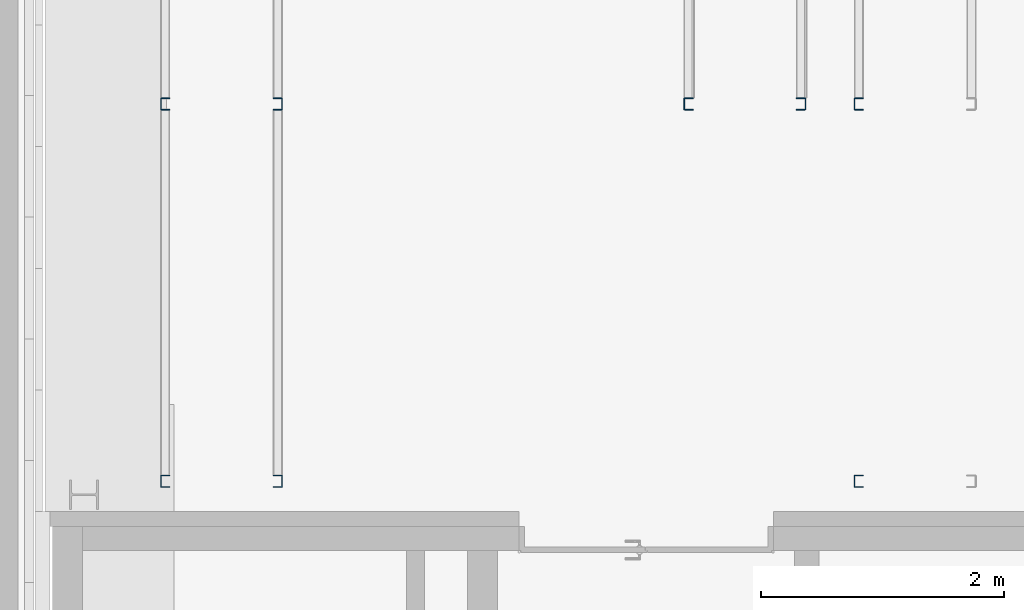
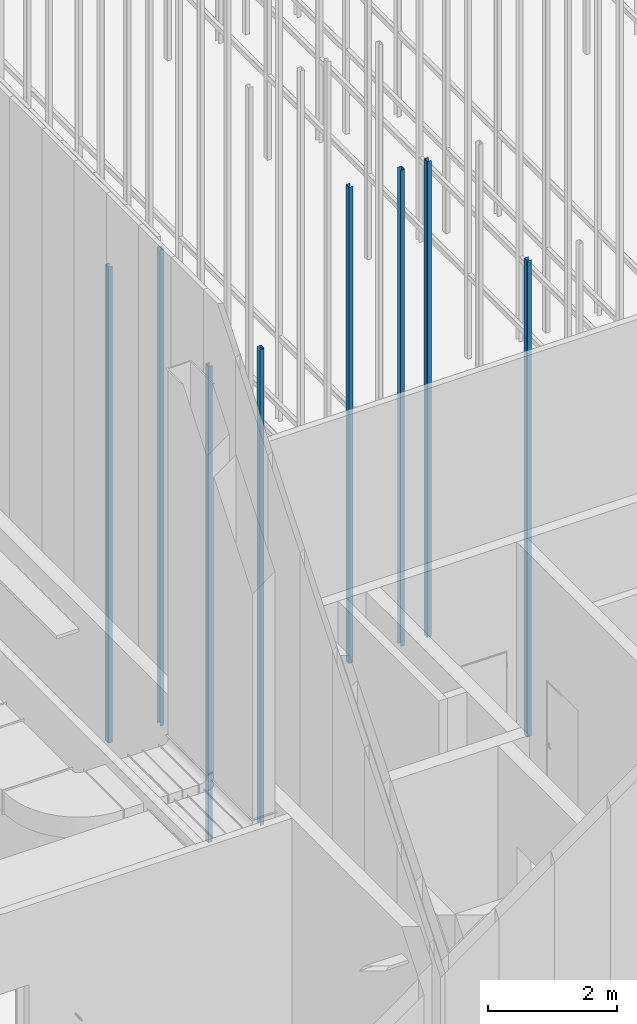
# One storey, part 6 of 302: 8 columns.
"""IFC2X3 building model written with IfcOpenShell, lengths in metres."""

from ifc_helpers import new_model, entity, si_unit, converted_unit, derived_unit, direction, frame, frame_2d, origin, place, context, subcontext, project, spatial, polyline, circle_curve, parameter, trimmed, segment, composite_curve, outline, extrude, source, transform, mapped, material, type_object, type_shapes, element, save


model = new_model("IFC2X3")

# Units and contexts
model_context = context("Model", 3, precision=1e-05, world=origin(), true_north=direction((6.12303176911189e-17, 1.0)))
body_context = subcontext(model_context, "Body", "Model", "MODEL_VIEW")
ifc_project = project(units=[si_unit("LENGTHUNIT", "METRE"), si_unit("AREAUNIT", "SQUARE_METRE"), si_unit("VOLUMEUNIT", "CUBIC_METRE"), converted_unit("PLANEANGLEUNIT", "DEGREE", entity("IfcRatioMeasure", 0.0174532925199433), si_unit("PLANEANGLEUNIT", "RADIAN"), dimensions=[0, 0, 0, 0, 0, 0, 0]), si_unit("MASSUNIT", "GRAM", prefix="KILO"), derived_unit("MASSDENSITYUNIT", [(si_unit("MASSUNIT", "GRAM", prefix="KILO"), 1), (si_unit("LENGTHUNIT", "METRE"), -3)]), derived_unit("MOMENTOFINERTIAUNIT", [(si_unit("LENGTHUNIT", "METRE"), 4)]), si_unit("TIMEUNIT", "SECOND"), si_unit("FREQUENCYUNIT", "HERTZ"), si_unit("THERMODYNAMICTEMPERATUREUNIT", "DEGREE_CELSIUS"), derived_unit("THERMALTRANSMITTANCEUNIT", [(si_unit("MASSUNIT", "GRAM", prefix="KILO"), 1), (si_unit("THERMODYNAMICTEMPERATUREUNIT", "KELVIN"), -1), (si_unit("TIMEUNIT", "SECOND"), -3)]), derived_unit("VOLUMETRICFLOWRATEUNIT", [(si_unit("LENGTHUNIT", "METRE"), 3), (si_unit("TIMEUNIT", "SECOND"), -1)]), si_unit("ELECTRICCURRENTUNIT", "AMPERE"), si_unit("ELECTRICVOLTAGEUNIT", "VOLT"), si_unit("POWERUNIT", "WATT"), si_unit("FORCEUNIT", "NEWTON", prefix="KILO"), si_unit("ILLUMINANCEUNIT", "LUX"), si_unit("LUMINOUSFLUXUNIT", "LUMEN"), si_unit("LUMINOUSINTENSITYUNIT", "CANDELA"), derived_unit("USERDEFINED", [(si_unit("MASSUNIT", "GRAM", prefix="KILO"), -1), (si_unit("LENGTHUNIT", "METRE"), -2), (si_unit("TIMEUNIT", "SECOND"), 3), (si_unit("LUMINOUSFLUXUNIT", "LUMEN"), 1)]), derived_unit("LINEARVELOCITYUNIT", [(si_unit("LENGTHUNIT", "METRE"), 1), (si_unit("TIMEUNIT", "SECOND"), -1)]), si_unit("PRESSUREUNIT", "PASCAL"), derived_unit("USERDEFINED", [(si_unit("LENGTHUNIT", "METRE"), -2), (si_unit("MASSUNIT", "GRAM", prefix="KILO"), 1), (si_unit("TIMEUNIT", "SECOND"), -2)]), derived_unit("LINEARFORCEUNIT", [(si_unit("MASSUNIT", "GRAM", prefix="KILO"), 1), (si_unit("LENGTHUNIT", "METRE"), 1), (si_unit("TIMEUNIT", "SECOND"), -2), (si_unit("LENGTHUNIT", "METRE"), -1)]), derived_unit("PLANARFORCEUNIT", [(si_unit("MASSUNIT", "GRAM", prefix="KILO"), 1), (si_unit("LENGTHUNIT", "METRE"), 1), (si_unit("TIMEUNIT", "SECOND"), -2), (si_unit("LENGTHUNIT", "METRE"), -2)])], contexts=[model_context])

# Site, building, storey
site_placement = place(None, origin())
site = spatial("IfcSite", under=ifc_project, at=site_placement, Name="Default", CompositionType="ELEMENT")
building_placement = place(site_placement, origin())
building = spatial("IfcBuilding", under=site, at=building_placement, CompositionType="ELEMENT")
storey_placement = place(building_placement, frame((0.0, 0.0, -1.3)))
storey = spatial("IfcBuildingStorey", under=building, at=storey_placement, Name="00_EG", CompositionType="ELEMENT", Elevation=-1.3)

# Columns
ifc_material = material(Name="Metall - Baustahl S235")
column_type_1 = type_object("IfcColumnType", Name="Leichter Stahl Schlossschrauben Stütze:C 100", PredefinedType="COLUMN", material=ifc_material)
shared_shape_1 = source(origin(), body_context, "Body", "SweptSolid", [
    extrude(outline(composite_curve([segment(polyline([(-0.0469749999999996, -0.0499999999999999), (0.0214500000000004, -0.0499999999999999)]), True, "CONTINUOUS"), segment(trimmed(circle_curve(frame_2d((0.0214500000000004, -0.0434249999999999), x_axis=(0.0, -1.0)), 0.00657500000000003), [parameter(0.0)], [parameter(89.9999999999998)], True, "PARAMETER"), True, "CONTINUOUS"), segment(polyline([(0.0280250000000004, -0.0434249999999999), (0.0280250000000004, 0.0434250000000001)]), True, "CONTINUOUS"), segment(trimmed(circle_curve(frame_2d((0.0214500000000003, 0.0434250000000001), x_axis=(1.0, 0.0)), 0.0065750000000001), [parameter(0.0)], [parameter(89.9999999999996)], True, "PARAMETER"), True, "CONTINUOUS"), segment(polyline([(0.0214500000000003, 0.0500000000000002), (-0.0469750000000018, 0.0500000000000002)]), True, "CONTINUOUS"), segment(polyline([(-0.0469750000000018, 0.0500000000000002), (-0.0469750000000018, 0.0450000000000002)]), True, "CONTINUOUS"), segment(polyline([(-0.0469750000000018, 0.0450000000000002), (0.0214500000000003, 0.0450000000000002)]), True, "CONTINUOUS"), segment(trimmed(circle_curve(frame_2d((0.0214500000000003, 0.0434249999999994), x_axis=(0.0, 1.0)), 0.00157500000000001), [parameter(269.999999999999)], [parameter(0.0)], True, "PARAMETER"), False, "CONTINUOUS"), segment(polyline([(0.0230250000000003, 0.0434249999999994), (0.0230250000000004, -0.0434249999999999)]), True, "CONTINUOUS"), segment(trimmed(circle_curve(frame_2d((0.0214500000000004, -0.0434249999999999), x_axis=(1.0, 0.0)), 0.00157500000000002), [parameter(270.0)], [parameter(0.0)], True, "PARAMETER"), False, "CONTINUOUS"), segment(polyline([(0.0214500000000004, -0.0449999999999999), (-0.0469749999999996, -0.0449999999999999)]), True, "CONTINUOUS"), segment(polyline([(-0.0469749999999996, -0.0449999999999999), (-0.0469749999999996, -0.0499999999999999)]), True, "CONTINUOUS")], self_intersect=False)), frame((0.0499999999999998, 0.0280250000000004, -0.0300000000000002), z_axis=(0.0, 0.0, 1.0), x_axis=(0.0, -1.0, 0.0)), (0.0, 0.0, 1.0), 9.0),
])
type_shapes(column_type_1, [shared_shape_1])
for number, where, z_axis, x_axis in (
    (1, (-200.790111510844, 27.148088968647, 1.3), (0.0, 0.0, 1.0), (0.0, -1.0, 0.0)),
    (2, (-200.790111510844, 24.048088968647, 1.3), (0.0, 0.0, 1.0), (0.0, -1.0, 0.0)),
    (3, (-202.190111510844, 27.148088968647, 1.3), (0.0, 0.0, 1.0), (0.0, -1.0, 0.0)),
    (4, (-206.490111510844, 27.1480889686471, 1.3), (0.0, 0.0, 1.0), (0.0, -1.0, 0.0)),
    (5, (-206.490111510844, 24.0480889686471, 1.3), (0.0, 0.0, 1.0), (0.0, -1.0, 0.0)),
):
    element("IfcColumn", number, at=place(storey_placement, frame(where, z_axis=z_axis, x_axis=x_axis)), inside=storey, type_object=column_type_1, material=ifc_material, Name="Leichter Stahl Schlossschrauben Stütze:C 100", ObjectType="Leichter Stahl Schlossschrauben Stütze:C 100", context=body_context, shape_type="MappedRepresentation", body=[
        mapped(shared_shape_1, transform((0.0, 0.0, 0.0), scale=1.0)),
    ])
column_type_2 = type_object("IfcColumnType", Name="Leichter Stahl Schlossschrauben Stütze:C 100", PredefinedType="COLUMN", material=ifc_material)
shared_shape_2 = source(origin(), body_context, "Body", "SweptSolid", [
    extrude(outline(composite_curve([segment(polyline([(-0.0214500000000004, -0.0499999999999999), (0.0469749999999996, -0.0499999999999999)]), True, "CONTINUOUS"), segment(polyline([(0.0469749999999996, -0.0499999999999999), (0.0469749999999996, -0.0449999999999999)]), True, "CONTINUOUS"), segment(polyline([(0.0469749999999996, -0.0449999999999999), (-0.0214500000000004, -0.045)]), True, "CONTINUOUS"), segment(trimmed(circle_curve(frame_2d((-0.0214500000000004, -0.043425), x_axis=(0.0, -1.0)), 0.00157500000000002), [parameter(270.0)], [parameter(0.0)], True, "PARAMETER"), False, "CONTINUOUS"), segment(polyline([(-0.0230250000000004, -0.0434249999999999), (-0.0230250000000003, 0.0434249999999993)]), True, "CONTINUOUS"), segment(trimmed(circle_curve(frame_2d((-0.0214500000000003, 0.0434249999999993), x_axis=(-1.0, 0.0)), 0.00157500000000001), [parameter(269.999999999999)], [parameter(0.0)], True, "PARAMETER"), False, "CONTINUOUS"), segment(polyline([(-0.0214500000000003, 0.0450000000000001), (0.0469750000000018, 0.0450000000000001)]), True, "CONTINUOUS"), segment(polyline([(0.0469750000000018, 0.0450000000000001), (0.0469750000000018, 0.0500000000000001)]), True, "CONTINUOUS"), segment(polyline([(0.0469750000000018, 0.0500000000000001), (-0.0214500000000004, 0.0500000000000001)]), True, "CONTINUOUS"), segment(trimmed(circle_curve(frame_2d((-0.0214500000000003, 0.043425), x_axis=(0.0, 1.0)), 0.0065750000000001), [parameter(0.0)], [parameter(89.9999999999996)], True, "PARAMETER"), True, "CONTINUOUS"), segment(polyline([(-0.0280250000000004, 0.043425), (-0.0280250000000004, -0.043425)]), True, "CONTINUOUS"), segment(trimmed(circle_curve(frame_2d((-0.0214500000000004, -0.0434249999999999), x_axis=(-1.0, 0.0)), 0.00657500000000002), [parameter(0.0)], [parameter(89.9999999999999)], True, "PARAMETER"), True, "CONTINUOUS")], self_intersect=False)), frame((0.0499999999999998, -0.0280250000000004, -0.0300000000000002), z_axis=(0.0, 0.0, 1.0), x_axis=(0.0, -1.0, 0.0)), (0.0, 0.0, 1.0), 9.0),
])
type_shapes(column_type_2, [shared_shape_2])
for number, where, z_axis, x_axis in (
    (6, (-201.190111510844, 27.148088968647, 1.3), (0.0, 0.0, 1.0), (0.0, -1.0, 0.0)),
    (7, (-205.490111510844, 27.1480889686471, 1.3), (0.0, 0.0, 1.0), (0.0, -1.0, 0.0)),
    (8, (-205.490111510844, 24.0480889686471, 1.3), (0.0, 0.0, 1.0), (0.0, -1.0, 0.0)),
):
    element("IfcColumn", number, at=place(storey_placement, frame(where, z_axis=z_axis, x_axis=x_axis)), inside=storey, type_object=column_type_2, material=ifc_material, Name="Leichter Stahl Schlossschrauben Stütze:C 100", ObjectType="Leichter Stahl Schlossschrauben Stütze:C 100", context=body_context, shape_type="MappedRepresentation", body=[
        mapped(shared_shape_2, transform((0.0, 0.0, 0.0), scale=1.0)),
    ])

save(model, "model.ifc")
